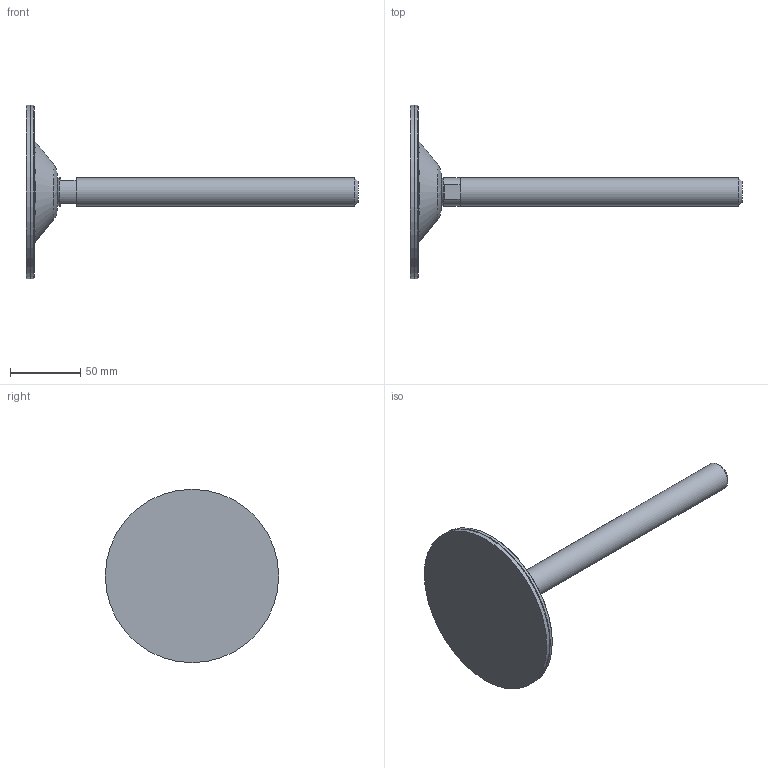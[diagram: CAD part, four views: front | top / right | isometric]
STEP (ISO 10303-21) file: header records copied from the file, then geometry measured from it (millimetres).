
FILE_DESCRIPTION(('STEP AP203'),'2;1');
FILE_NAME('15710-V.stp','2016-11-29T11:47:41',(''),(''),'2008.1.107','THINKDESIGN','');
FILE_SCHEMA(('CONFIG_CONTROL_DESIGN'));
Length unit declared in the file: millimetre
Bounding box: 235.5 x 123 x 123 mm (x, y, z)
Volume: 139949.5 mm3; surface area: 66661.4 mm2
Topology: 8 solids, 8 shells, 45 faces, 110 edges, 83 vertices
Faces by surface type: plane 22, cylinder 13, bspline 10
Full cylindrical faces by diameter (mm): 12.5 x8, 14 x1, 20 x2, 123 x2
Entity records: 2036 total; most frequent: CARTESIAN_POINT 793, DIRECTION 264, ORIENTED_EDGE 220, AXIS2_PLACEMENT_3D 119, EDGE_CURVE 110, CIRCLE 84, VERTEX_POINT 83, EDGE_LOOP 57
